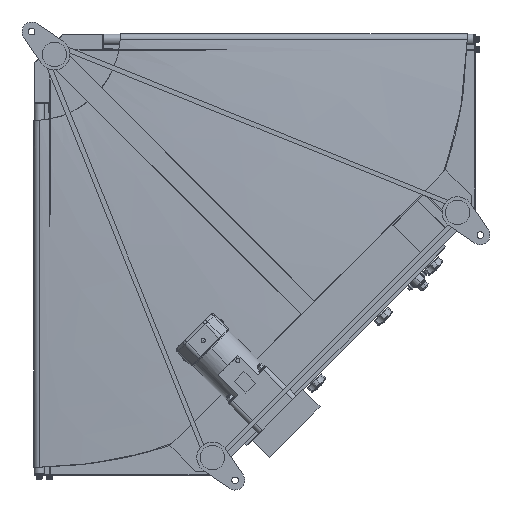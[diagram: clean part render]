
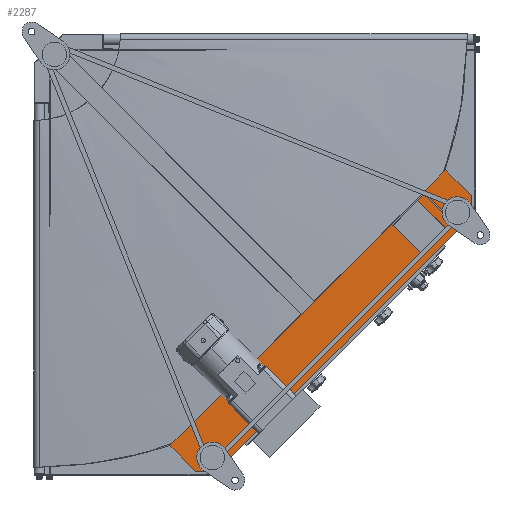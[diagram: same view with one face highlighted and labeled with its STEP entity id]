
A CAD part, front view. The second image highlights one B-rep face of the part: STEP entity #2287.
In plain terms, the highlighted planar face has unit normal (0, -1, 0).
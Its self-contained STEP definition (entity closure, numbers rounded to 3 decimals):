
#1013 = VECTOR ( 'NONE', #28492, 1000. ) ;
#1711 = VECTOR ( 'NONE', #40710, 1000. ) ;
#1753 = ORIENTED_EDGE ( 'NONE', *, *, #4175, .F. ) ;
#2287 = ADVANCED_FACE ( 'NONE', ( #19624 ), #24239, .F. ) ;
#3251 = VERTEX_POINT ( 'NONE', #40721 ) ;
#4175 = EDGE_CURVE ( 'NONE', #16509, #3251, #27950, .T. ) ;
#4892 = DIRECTION ( 'NONE',  ( 0.707, 0., 0.707 ) ) ;
#4987 = DIRECTION ( 'NONE',  ( 0., 1., 0. ) ) ;
#6517 = DIRECTION ( 'NONE',  ( 0.707, 0., -0.707 ) ) ;
#7553 = EDGE_LOOP ( 'NONE', ( #8592, #12186, #29268, #1753, #10034, #24972 ) ) ;
#8167 = DIRECTION ( 'NONE',  ( 0., 0., 1. ) ) ;
#8592 = ORIENTED_EDGE ( 'NONE', *, *, #39404, .F. ) ;
#8670 = DIRECTION ( 'NONE',  ( -1., 0., 0. ) ) ;
#9244 = CARTESIAN_POINT ( 'NONE',  ( 856.66, -167.5, -358.15 ) ) ;
#10034 = ORIENTED_EDGE ( 'NONE', *, *, #22972, .F. ) ;
#10758 = VECTOR ( 'NONE', #22014, 1000. ) ;
#11182 = AXIS2_PLACEMENT_3D ( 'NONE', #30561, #4987, #8167 ) ;
#11564 = CARTESIAN_POINT ( 'NONE',  ( 315.723, -167.5, -856.66 ) ) ;
#11794 = VERTEX_POINT ( 'NONE', #33901 ) ;
#12186 = ORIENTED_EDGE ( 'NONE', *, *, #26511, .F. ) ;
#13427 = VERTEX_POINT ( 'NONE', #34772 ) ;
#14752 = CARTESIAN_POINT ( 'NONE',  ( 315.723, -167.5, -856.66 ) ) ;
#16509 = VERTEX_POINT ( 'NONE', #11564 ) ;
#18449 = CARTESIAN_POINT ( 'NONE',  ( 266.226, -167.5, -807.162 ) ) ;
#19322 = LINE ( 'NONE', #28219, #1013 ) ;
#19624 = FACE_OUTER_BOUND ( 'NONE', #7553, .T. ) ;
#20530 = CARTESIAN_POINT ( 'NONE',  ( 266.226, -167.5, -807.162 ) ) ;
#22014 = DIRECTION ( 'NONE',  ( -0.707, 0., -0.707 ) ) ;
#22900 = CARTESIAN_POINT ( 'NONE',  ( 807.162, -167.5, -266.226 ) ) ;
#22972 = EDGE_CURVE ( 'NONE', #34067, #16509, #33087, .T. ) ;
#24239 = PLANE ( 'NONE',  #11182 ) ;
#24972 = ORIENTED_EDGE ( 'NONE', *, *, #32336, .F. ) ;
#25409 = CARTESIAN_POINT ( 'NONE',  ( 358.15, -167.5, -856.66 ) ) ;
#25875 = VECTOR ( 'NONE', #6517, 1000. ) ;
#26511 = EDGE_CURVE ( 'NONE', #11794, #13427, #38724, .T. ) ;
#27950 = LINE ( 'NONE', #18449, #1711 ) ;
#28219 = CARTESIAN_POINT ( 'NONE',  ( 856.66, -167.5, -358.15 ) ) ;
#28492 = DIRECTION ( 'NONE',  ( 0., 0., -1. ) ) ;
#29268 = ORIENTED_EDGE ( 'NONE', *, *, #31167, .F. ) ;
#30561 = CARTESIAN_POINT ( 'NONE',  ( 0., -167.5, 0. ) ) ;
#31167 = EDGE_CURVE ( 'NONE', #3251, #11794, #37844, .T. ) ;
#31879 = VECTOR ( 'NONE', #4892, 1000. ) ;
#32336 = EDGE_CURVE ( 'NONE', #38414, #34067, #40469, .T. ) ;
#33087 = LINE ( 'NONE', #14752, #34116 ) ;
#33901 = CARTESIAN_POINT ( 'NONE',  ( 807.162, -167.5, -266.226 ) ) ;
#34067 = VERTEX_POINT ( 'NONE', #25409 ) ;
#34116 = VECTOR ( 'NONE', #8670, 1000. ) ;
#34738 = CARTESIAN_POINT ( 'NONE',  ( 358.15, -167.5, -856.66 ) ) ;
#34772 = CARTESIAN_POINT ( 'NONE',  ( 856.66, -167.5, -315.723 ) ) ;
#37844 = LINE ( 'NONE', #20530, #31879 ) ;
#38414 = VERTEX_POINT ( 'NONE', #9244 ) ;
#38724 = LINE ( 'NONE', #22900, #25875 ) ;
#39404 = EDGE_CURVE ( 'NONE', #13427, #38414, #19322, .T. ) ;
#40469 = LINE ( 'NONE', #34738, #10758 ) ;
#40710 = DIRECTION ( 'NONE',  ( -0.707, 0., 0.707 ) ) ;
#40721 = CARTESIAN_POINT ( 'NONE',  ( 266.226, -167.5, -807.162 ) ) ;
